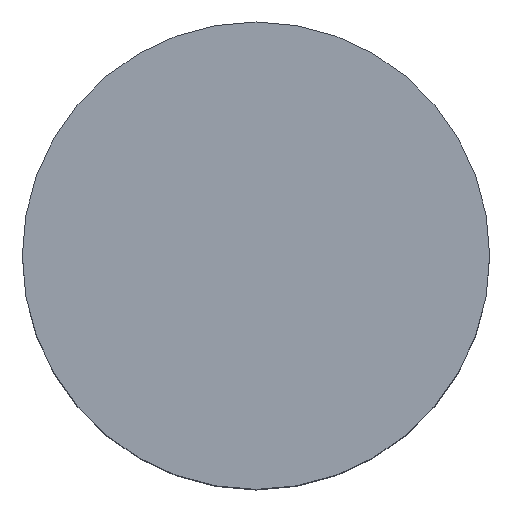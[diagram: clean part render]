
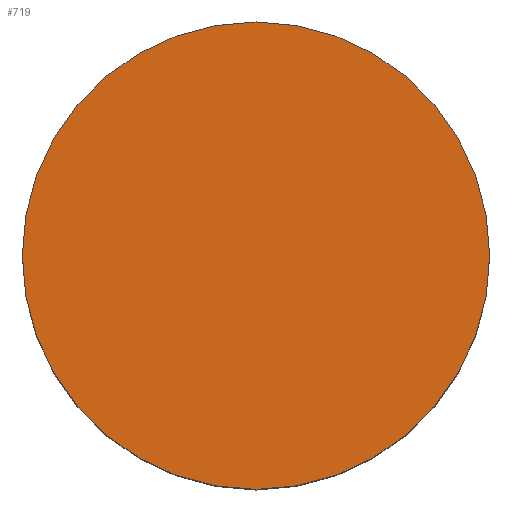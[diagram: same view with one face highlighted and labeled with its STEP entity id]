
A CAD part, top view. The second image highlights one B-rep face of the part: STEP entity #719.
In plain terms, the highlighted planar face has unit normal (0, 0, 1).
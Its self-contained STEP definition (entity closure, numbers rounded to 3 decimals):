
#159 = CIRCLE ( 'NONE', #761, 25. ) ;
#162 = CARTESIAN_POINT ( 'NONE',  ( -25., 0., 10. ) ) ;
#263 = DIRECTION ( 'NONE',  ( 1., 0., 0. ) ) ;
#271 = FACE_OUTER_BOUND ( 'NONE', #667, .T. ) ;
#273 = DIRECTION ( 'NONE',  ( 0., 0., 1. ) ) ;
#290 = VERTEX_POINT ( 'NONE', #301 ) ;
#301 = CARTESIAN_POINT ( 'NONE',  ( 25., 0., 10. ) ) ;
#336 = CARTESIAN_POINT ( 'NONE',  ( -25., 0., 10. ) ) ;
#368 = DIRECTION ( 'NONE',  ( -1., 0., 0. ) ) ;
#393 = CARTESIAN_POINT ( 'NONE',  ( 0., 0., 10. ) ) ;
#394 = DIRECTION ( 'NONE',  ( 0., 0., -1. ) ) ;
#464 = ORIENTED_EDGE ( 'NONE', *, *, #665, .T. ) ;
#498 = PLANE ( 'NONE',  #955 ) ;
#590 = DIRECTION ( 'NONE',  ( 1., 0., 0. ) ) ;
#595 = DIRECTION ( 'NONE',  ( 0., 0., 1. ) ) ;
#604 = CARTESIAN_POINT ( 'NONE',  ( 0., 0., 10. ) ) ;
#665 = EDGE_CURVE ( 'NONE', #1034, #290, #771, .T. ) ;
#667 = EDGE_LOOP ( 'NONE', ( #674, #464 ) ) ;
#674 = ORIENTED_EDGE ( 'NONE', *, *, #947, .T. ) ;
#719 = ADVANCED_FACE ( 'NONE', ( #271 ), #498, .F. ) ;
#761 = AXIS2_PLACEMENT_3D ( 'NONE', #393, #273, #263 ) ;
#771 = CIRCLE ( 'NONE', #1021, 25. ) ;
#947 = EDGE_CURVE ( 'NONE', #290, #1034, #159, .T. ) ;
#955 = AXIS2_PLACEMENT_3D ( 'NONE', #162, #394, #368 ) ;
#1021 = AXIS2_PLACEMENT_3D ( 'NONE', #604, #595, #590 ) ;
#1034 = VERTEX_POINT ( 'NONE', #336 ) ;
